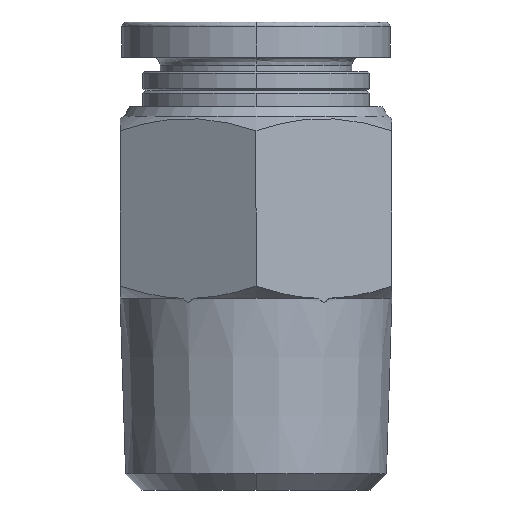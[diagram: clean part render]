
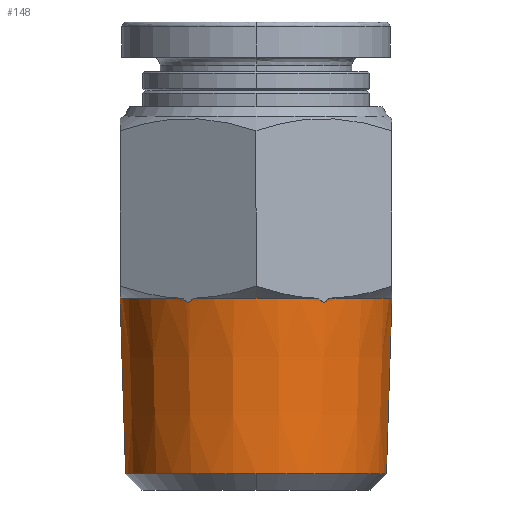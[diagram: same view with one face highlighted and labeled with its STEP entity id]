
A CAD part, left-side view. The second image highlights one B-rep face of the part: STEP entity #148.
In plain terms, the highlighted conical face has half-angle 1.79 degrees and reference radius 8.508 mm.
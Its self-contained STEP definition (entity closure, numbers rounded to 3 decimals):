
#25 = CARTESIAN_POINT ( 'NONE',  ( -7.182, 4.561, 12. ) ) ;
#81 = CIRCLE ( 'NONE', #612, 8.164 ) ;
#82 = CARTESIAN_POINT ( 'NONE',  ( -0.147, -8.5, 11.792 ) ) ;
#87 = AXIS2_PLACEMENT_3D ( 'NONE', #893, #1074, #1213 ) ;
#148 = ADVANCED_FACE ( '26', ( #911 ), #1183, .T. ) ;
#162 = CARTESIAN_POINT ( 'NONE',  ( -8.164, 0., 1.014 ) ) ;
#164 = DIRECTION ( 'NONE',  ( 0., 0., 1. ) ) ;
#195 = CARTESIAN_POINT ( 'NONE',  ( -0.359, 8.5, 12. ) ) ;
#215 = ORIENTED_EDGE ( 'NONE', *, *, #327, .F. ) ;
#223 = CARTESIAN_POINT ( 'NONE',  ( -0.265, -8.5, 11.884 ) ) ;
#232 = VERTEX_POINT ( 'NONE', #1285 ) ;
#273 = AXIS2_PLACEMENT_3D ( 'NONE', #972, #855, #1420 ) ;
#275 = EDGE_CURVE ( 'NONE', #576, #1225, #1079, .T. ) ;
#282 = ORIENTED_EDGE ( 'NONE', *, *, #755, .F. ) ;
#299 = CARTESIAN_POINT ( 'NONE',  ( -7.541, -3.939, 12. ) ) ;
#305 = DIRECTION ( 'NONE',  ( 0., 0., 1. ) ) ;
#323 = CARTESIAN_POINT ( 'NONE',  ( -0.264, 8.5, 11.883 ) ) ;
#327 = EDGE_CURVE ( 'NONE', #461, #593, #1627, .T. ) ;
#334 = CARTESIAN_POINT ( 'NONE',  ( -0.146, 8.5, 11.792 ) ) ;
#336 = DIRECTION ( 'NONE',  ( 0., 0., 1. ) ) ;
#369 = DIRECTION ( 'NONE',  ( -0.036, 0.999, 0. ) ) ;
#396 = CARTESIAN_POINT ( 'NONE',  ( -7.323, 4.316, 11.758 ) ) ;
#409 = CARTESIAN_POINT ( 'NONE',  ( -7.228, 4.48, 11.884 ) ) ;
#435 = CARTESIAN_POINT ( 'NONE',  ( -7.493, 4.021, 11.883 ) ) ;
#461 = VERTEX_POINT ( 'NONE', #1132 ) ;
#474 = EDGE_CURVE ( 'NONE', #1225, #480, #599, .T. ) ;
#480 = VERTEX_POINT ( 'NONE', #1888 ) ;
#486 = CARTESIAN_POINT ( 'NONE',  ( -0.359, -8.5, 12. ) ) ;
#490 = DIRECTION ( 'NONE',  ( 1., 0., 0. ) ) ;
#535 = CARTESIAN_POINT ( 'NONE',  ( -7.182, 4.561, 12. ) ) ;
#576 = VERTEX_POINT ( 'NONE', #1511 ) ;
#578 = CARTESIAN_POINT ( 'NONE',  ( -7.541, 3.939, 12. ) ) ;
#579 = CIRCLE ( 'NONE', #1050, 8.164 ) ;
#593 = VERTEX_POINT ( 'NONE', #299 ) ;
#599 = B_SPLINE_CURVE_WITH_KNOTS ( 'NONE', 3,
 ( #1748, #1565, #223, #82, #1448, #1294 ),
 .UNSPECIFIED., .F., .F.,
 ( 4, 2, 4 ),
 ( 0., 0., 0. ),
 .UNSPECIFIED. ) ;
#607 = VERTEX_POINT ( 'NONE', #25 ) ;
#612 = AXIS2_PLACEMENT_3D ( 'NONE', #1286, #1892, #682 ) ;
#619 = CIRCLE ( 'NONE', #870, 8.508 ) ;
#682 = DIRECTION ( 'NONE',  ( 1., 0., 0. ) ) ;
#691 = B_SPLINE_CURVE_WITH_KNOTS ( 'NONE', 3,
 ( #1324, #1912, #1774, #696, #882, #1599, #1749, #1335, #1165, #1028 ),
 .UNSPECIFIED., .F., .F.,
 ( 4, 2, 2, 2, 4 ),
 ( 0., 0., 0., 0.001, 0.001 ),
 .UNSPECIFIED. ) ;
#696 = CARTESIAN_POINT ( 'NONE',  ( -7.435, -4.122, 11.793 ) ) ;
#699 = EDGE_CURVE ( 'NONE', #593, #576, #691, .T. ) ;
#755 = EDGE_CURVE ( 'NONE', #607, #461, #1382, .T. ) ;
#758 = CARTESIAN_POINT ( 'NONE',  ( 0., 8.508, 12. ) ) ;
#781 = CARTESIAN_POINT ( 'NONE',  ( 0., 0., 12. ) ) ;
#788 = CARTESIAN_POINT ( 'NONE',  ( 0., 0., 1.014 ) ) ;
#790 = VERTEX_POINT ( 'NONE', #1650 ) ;
#808 = ORIENTED_EDGE ( 'NONE', *, *, #699, .F. ) ;
#855 = DIRECTION ( 'NONE',  ( 0., 0., 1. ) ) ;
#870 = AXIS2_PLACEMENT_3D ( 'NONE', #781, #336, #369 ) ;
#882 = CARTESIAN_POINT ( 'NONE',  ( -7.399, -4.184, 11.758 ) ) ;
#893 = CARTESIAN_POINT ( 'NONE',  ( 0., 0., 12. ) ) ;
#898 = AXIS2_PLACEMENT_3D ( 'NONE', #1352, #164, #1368 ) ;
#899 = EDGE_CURVE ( 'NONE', #232, #607, #619, .T. ) ;
#911 = FACE_OUTER_BOUND ( 'NONE', #1620, .T. ) ;
#934 = ORIENTED_EDGE ( 'NONE', *, *, #474, .F. ) ;
#952 = CARTESIAN_POINT ( 'NONE',  ( 0., -8.164, 1.014 ) ) ;
#970 = CARTESIAN_POINT ( 'NONE',  ( 0., -8.508, 12. ) ) ;
#972 = CARTESIAN_POINT ( 'NONE',  ( 0., 0., 12. ) ) ;
#1008 = VERTEX_POINT ( 'NONE', #952 ) ;
#1028 = CARTESIAN_POINT ( 'NONE',  ( -7.182, -4.561, 12. ) ) ;
#1039 = CARTESIAN_POINT ( 'NONE',  ( -7.398, 4.186, 11.758 ) ) ;
#1050 = AXIS2_PLACEMENT_3D ( 'NONE', #788, #305, #490 ) ;
#1059 = ORIENTED_EDGE ( 'NONE', *, *, #1639, .T. ) ;
#1074 = DIRECTION ( 'NONE',  ( 0., 0., 1. ) ) ;
#1079 = CIRCLE ( 'NONE', #273, 8.508 ) ;
#1132 = CARTESIAN_POINT ( 'NONE',  ( -7.541, 3.939, 12. ) ) ;
#1144 = VERTEX_POINT ( 'NONE', #1841 ) ;
#1165 = CARTESIAN_POINT ( 'NONE',  ( -7.204, -4.522, 11.94 ) ) ;
#1183 = CONICAL_SURFACE ( 'NONE', #898, 8.508, 0.031 ) ;
#1213 = DIRECTION ( 'NONE',  ( -0.884, 0.468, 0. ) ) ;
#1224 = LINE ( 'NONE', #758, #1899 ) ;
#1225 = VERTEX_POINT ( 'NONE', #486 ) ;
#1226 = ORIENTED_EDGE ( 'NONE', *, *, #1789, .F. ) ;
#1263 = LINE ( 'NONE', #970, #1523 ) ;
#1273 = DIRECTION ( 'NONE',  ( 0., -0.031, 1. ) ) ;
#1285 = CARTESIAN_POINT ( 'NONE',  ( -0.359, 8.5, 12. ) ) ;
#1286 = CARTESIAN_POINT ( 'NONE',  ( 0., 0., 1.014 ) ) ;
#1294 = CARTESIAN_POINT ( 'NONE',  ( 0., -8.5, 11.758 ) ) ;
#1295 = ORIENTED_EDGE ( 'NONE', *, *, #275, .F. ) ;
#1316 = ORIENTED_EDGE ( 'NONE', *, *, #899, .F. ) ;
#1324 = CARTESIAN_POINT ( 'NONE',  ( -7.541, -3.939, 12. ) ) ;
#1335 = CARTESIAN_POINT ( 'NONE',  ( -7.229, -4.479, 11.883 ) ) ;
#1338 = CARTESIAN_POINT ( 'NONE',  ( -7.287, 4.378, 11.793 ) ) ;
#1352 = CARTESIAN_POINT ( 'NONE',  ( 0., 0., 12. ) ) ;
#1364 = CARTESIAN_POINT ( 'NONE',  ( 0., 8.5, 11.758 ) ) ;
#1368 = DIRECTION ( 'NONE',  ( 0., -1., 0. ) ) ;
#1382 = B_SPLINE_CURVE_WITH_KNOTS ( 'NONE', 3,
 ( #535, #1479, #409, #1338, #396, #1039, #1943, #435, #1783, #578 ),
 .UNSPECIFIED., .F., .F.,
 ( 4, 2, 2, 2, 4 ),
 ( 0., 0., 0., 0.001, 0.001 ),
 .UNSPECIFIED. ) ;
#1387 = DIRECTION ( 'NONE',  ( 0., 0.031, 1. ) ) ;
#1420 = DIRECTION ( 'NONE',  ( -0.847, -0.531, 0. ) ) ;
#1448 = CARTESIAN_POINT ( 'NONE',  ( -0.075, -8.5, 11.758 ) ) ;
#1479 = CARTESIAN_POINT ( 'NONE',  ( -7.204, 4.522, 11.94 ) ) ;
#1511 = CARTESIAN_POINT ( 'NONE',  ( -7.182, -4.561, 12. ) ) ;
#1520 = ORIENTED_EDGE ( 'NONE', *, *, #1726, .F. ) ;
#1523 = VECTOR ( 'NONE', #1273, 1000. ) ;
#1527 = ORIENTED_EDGE ( 'NONE', *, *, #1537, .T. ) ;
#1537 = EDGE_CURVE ( 'NONE', #1725, #1008, #81, .T. ) ;
#1565 = CARTESIAN_POINT ( 'NONE',  ( -0.314, -8.5, 11.94 ) ) ;
#1599 = CARTESIAN_POINT ( 'NONE',  ( -7.324, -4.314, 11.758 ) ) ;
#1620 = EDGE_LOOP ( 'NONE', ( #1520, #1850, #1527, #1059, #934, #1295, #808, #215, #282, #1316, #1226 ) ) ;
#1627 = CIRCLE ( 'NONE', #87, 8.508 ) ;
#1637 = B_SPLINE_CURVE_WITH_KNOTS ( 'NONE', 3,
 ( #1364, #1684, #334, #323, #1657, #195 ),
 .UNSPECIFIED., .F., .F.,
 ( 4, 2, 4 ),
 ( 0., 0.001, 0.001 ),
 .UNSPECIFIED. ) ;
#1639 = EDGE_CURVE ( 'NONE', #1008, #480, #1263, .T. ) ;
#1650 = CARTESIAN_POINT ( 'NONE',  ( 0., 8.5, 11.758 ) ) ;
#1657 = CARTESIAN_POINT ( 'NONE',  ( -0.314, 8.5, 11.94 ) ) ;
#1684 = CARTESIAN_POINT ( 'NONE',  ( -0.075, 8.5, 11.758 ) ) ;
#1725 = VERTEX_POINT ( 'NONE', #162 ) ;
#1726 = EDGE_CURVE ( 'NONE', #1144, #790, #1224, .T. ) ;
#1748 = CARTESIAN_POINT ( 'NONE',  ( -0.359, -8.5, 12. ) ) ;
#1749 = CARTESIAN_POINT ( 'NONE',  ( -7.288, -4.376, 11.791 ) ) ;
#1774 = CARTESIAN_POINT ( 'NONE',  ( -7.494, -4.02, 11.884 ) ) ;
#1783 = CARTESIAN_POINT ( 'NONE',  ( -7.518, 3.978, 11.94 ) ) ;
#1789 = EDGE_CURVE ( 'NONE', #790, #232, #1637, .T. ) ;
#1795 = EDGE_CURVE ( 'NONE', #1144, #1725, #579, .T. ) ;
#1841 = CARTESIAN_POINT ( 'NONE',  ( 0., 8.164, 1.014 ) ) ;
#1850 = ORIENTED_EDGE ( 'NONE', *, *, #1795, .T. ) ;
#1888 = CARTESIAN_POINT ( 'NONE',  ( 0., -8.5, 11.758 ) ) ;
#1892 = DIRECTION ( 'NONE',  ( 0., 0., 1. ) ) ;
#1899 = VECTOR ( 'NONE', #1387, 1000. ) ;
#1912 = CARTESIAN_POINT ( 'NONE',  ( -7.518, -3.978, 11.94 ) ) ;
#1943 = CARTESIAN_POINT ( 'NONE',  ( -7.434, 4.124, 11.791 ) ) ;
